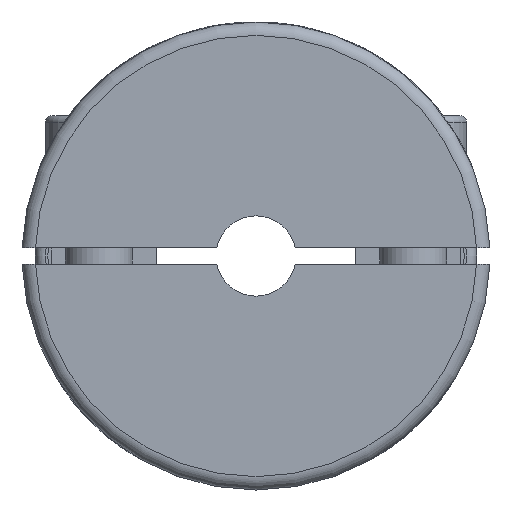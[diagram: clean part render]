
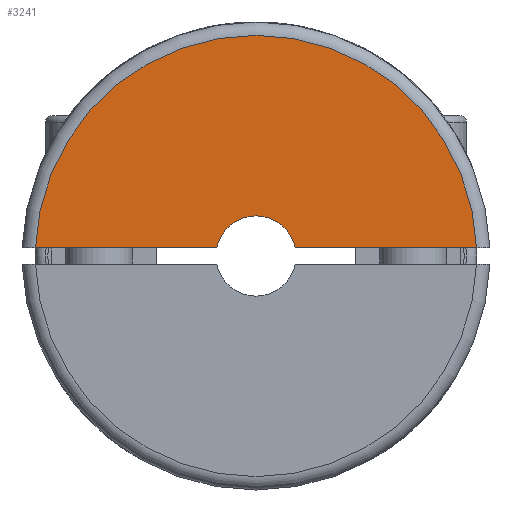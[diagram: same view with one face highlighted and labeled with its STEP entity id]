
A CAD part, left-side view. The second image highlights one B-rep face of the part: STEP entity #3241.
In plain terms, the highlighted planar face has unit normal (-1, 0, 0).
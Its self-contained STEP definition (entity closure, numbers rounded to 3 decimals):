
#56=LINE('',#5253,#196);
#60=LINE('',#5273,#200);
#196=VECTOR('',#4087,1000.);
#200=VECTOR('',#4093,1000.);
#394=PLANE('',#3554);
#619=ORIENTED_EDGE('',*,*,#1367,.F.);
#620=ORIENTED_EDGE('',*,*,#1348,.F.);
#621=ORIENTED_EDGE('',*,*,#1369,.T.);
#622=ORIENTED_EDGE('',*,*,#1354,.F.);
#1348=EDGE_CURVE('',#1736,#1737,#56,.T.);
#1354=EDGE_CURVE('',#1742,#1743,#60,.T.);
#1367=EDGE_CURVE('',#1737,#1742,#2050,.T.);
#1369=EDGE_CURVE('',#1736,#1743,#2052,.T.);
#1736=VERTEX_POINT('',#5252);
#1737=VERTEX_POINT('',#5254);
#1742=VERTEX_POINT('',#5274);
#1743=VERTEX_POINT('',#5275);
#2050=CIRCLE('',#3552,33.);
#2052=CIRCLE('',#3555,6.);
#2295=EDGE_LOOP('',(#619,#620,#621,#622));
#2747=FACE_BOUND('',#2295,.T.);
#3241=ADVANCED_FACE('',(#2747),#394,.F.);
#3552=AXIS2_PLACEMENT_3D('',#5306,#4117,#4118);
#3554=AXIS2_PLACEMENT_3D('',#5308,#4121,#4122);
#3555=AXIS2_PLACEMENT_3D('',#5309,#4123,#4124);
#4087=DIRECTION('',(0.,1.,0.));
#4093=DIRECTION('',(0.,1.,0.));
#4117=DIRECTION('',(1.,0.,0.));
#4118=DIRECTION('',(0.,0.,1.));
#4121=DIRECTION('',(1.,0.,0.));
#4122=DIRECTION('',(0.,0.,1.));
#4123=DIRECTION('',(1.,0.,0.));
#4124=DIRECTION('',(0.,0.,1.));
#5252=CARTESIAN_POINT('',(-104.,5.879,1.2));
#5253=CARTESIAN_POINT('',(-104.,0.,1.2));
#5254=CARTESIAN_POINT('',(-104.,32.978,1.2));
#5273=CARTESIAN_POINT('',(-104.,0.,1.2));
#5274=CARTESIAN_POINT('',(-104.,-32.978,1.2));
#5275=CARTESIAN_POINT('',(-104.,-5.879,1.2));
#5306=CARTESIAN_POINT('',(-104.,0.,0.));
#5308=CARTESIAN_POINT('',(-104.,0.,6.));
#5309=CARTESIAN_POINT('',(-104.,0.,0.));
